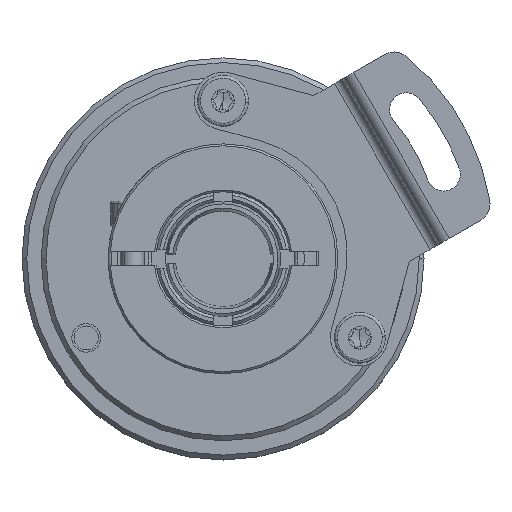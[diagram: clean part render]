
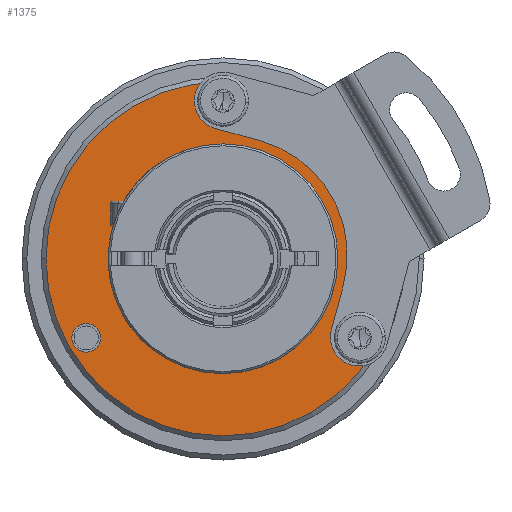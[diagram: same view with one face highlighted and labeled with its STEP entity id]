
A CAD part, top view. The second image highlights one B-rep face of the part: STEP entity #1375.
In plain terms, the highlighted planar face has unit normal (0, 0, 1).
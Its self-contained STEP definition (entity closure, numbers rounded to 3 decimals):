
#676 = EDGE_CURVE ( 'NONE', #703, #678, #4185, .T. ) ;
#678 = VERTEX_POINT ( 'NONE', #4181 ) ;
#703 = VERTEX_POINT ( 'NONE', #4200 ) ;
#705 = VERTEX_POINT ( 'NONE', #4199 ) ;
#716 = EDGE_CURVE ( 'NONE', #746, #705, #4240, .T. ) ;
#718 = VERTEX_POINT ( 'NONE', #4291 ) ;
#723 = VERTEX_POINT ( 'NONE', #4277 ) ;
#725 = VERTEX_POINT ( 'NONE', #4272 ) ;
#727 = VERTEX_POINT ( 'NONE', #4271 ) ;
#735 = EDGE_CURVE ( 'NONE', #727, #725, #4266, .T. ) ;
#744 = EDGE_CURVE ( 'NONE', #718, #723, #4313, .T. ) ;
#746 = VERTEX_POINT ( 'NONE', #4308 ) ;
#1351 = EDGE_LOOP ( 'NONE', ( #1363, #1398 ) ) ;
#1363 = ORIENTED_EDGE ( 'NONE', *, *, #1414, .F. ) ;
#1370 = EDGE_CURVE ( 'NONE', #678, #703, #5510, .T. ) ;
#1375 = ADVANCED_FACE ( 'NONE', ( #5560, #5559, #5558, #5557, #5556 ), #5500, .F. ) ;
#1377 = ORIENTED_EDGE ( 'NONE', *, *, #1370, .F. ) ;
#1379 = ORIENTED_EDGE ( 'NONE', *, *, #676, .F. ) ;
#1383 = EDGE_LOOP ( 'NONE', ( #1377, #1379 ) ) ;
#1390 = EDGE_LOOP ( 'NONE', ( #1397, #1407 ) ) ;
#1396 = EDGE_CURVE ( 'NONE', #725, #727, #5583, .T. ) ;
#1397 = ORIENTED_EDGE ( 'NONE', *, *, #1438, .T. ) ;
#1398 = ORIENTED_EDGE ( 'NONE', *, *, #716, .F. ) ;
#1400 = ORIENTED_EDGE ( 'NONE', *, *, #735, .F. ) ;
#1402 = EDGE_LOOP ( 'NONE', ( #1405, #1400 ) ) ;
#1404 = EDGE_LOOP ( 'NONE', ( #1408, #1410 ) ) ;
#1405 = ORIENTED_EDGE ( 'NONE', *, *, #1396, .F. ) ;
#1407 = ORIENTED_EDGE ( 'NONE', *, *, #744, .T. ) ;
#1408 = ORIENTED_EDGE ( 'NONE', *, *, #1416, .F. ) ;
#1410 = ORIENTED_EDGE ( 'NONE', *, *, #1913, .F. ) ;
#1414 = EDGE_CURVE ( 'NONE', #705, #746, #5570, .T. ) ;
#1416 = EDGE_CURVE ( 'NONE', #1918, #1921, #5625, .T. ) ;
#1438 = EDGE_CURVE ( 'NONE', #723, #718, #5650, .T. ) ;
#1913 = EDGE_CURVE ( 'NONE', #1921, #1918, #8037, .T. ) ;
#1918 = VERTEX_POINT ( 'NONE', #8031 ) ;
#1921 = VERTEX_POINT ( 'NONE', #8021 ) ;
#4181 = CARTESIAN_POINT ( 'NONE',  ( 15.789, -8.25, 0. ) ) ;
#4182 = DIRECTION ( 'NONE',  ( 1., 0., 0. ) ) ;
#4183 = DIRECTION ( 'NONE',  ( 0., 0., 1. ) ) ;
#4184 = AXIS2_PLACEMENT_3D ( 'NONE', #4190, #4183, #4182 ) ;
#4185 = CIRCLE ( 'NONE', #4184, 1.5 ) ;
#4190 = CARTESIAN_POINT ( 'NONE',  ( 14.289, -8.25, 0. ) ) ;
#4199 = CARTESIAN_POINT ( 'NONE',  ( -12.789, -8.25, 0. ) ) ;
#4200 = CARTESIAN_POINT ( 'NONE',  ( 12.789, -8.25, 0. ) ) ;
#4231 = DIRECTION ( 'NONE',  ( 1., 0., 0. ) ) ;
#4232 = DIRECTION ( 'NONE',  ( 0., 0., 1. ) ) ;
#4233 = CARTESIAN_POINT ( 'NONE',  ( -14.289, -8.25, 0. ) ) ;
#4234 = AXIS2_PLACEMENT_3D ( 'NONE', #4233, #4232, #4231 ) ;
#4240 = CIRCLE ( 'NONE', #4234, 1.5 ) ;
#4262 = DIRECTION ( 'NONE',  ( 1., 0., 0. ) ) ;
#4263 = DIRECTION ( 'NONE',  ( 0., 0., 1. ) ) ;
#4264 = CARTESIAN_POINT ( 'NONE',  ( 0., 16.5, 0. ) ) ;
#4265 = AXIS2_PLACEMENT_3D ( 'NONE', #4264, #4263, #4262 ) ;
#4266 = CIRCLE ( 'NONE', #4265, 1.5 ) ;
#4271 = CARTESIAN_POINT ( 'NONE',  ( -1.5, 16.5, 0. ) ) ;
#4272 = CARTESIAN_POINT ( 'NONE',  ( 1.5, 16.5, 0. ) ) ;
#4277 = CARTESIAN_POINT ( 'NONE',  ( -18.5, 0., 0. ) ) ;
#4291 = CARTESIAN_POINT ( 'NONE',  ( 18.5, 0., 0. ) ) ;
#4308 = CARTESIAN_POINT ( 'NONE',  ( -15.789, -8.25, 0. ) ) ;
#4309 = DIRECTION ( 'NONE',  ( -1., 0., 0. ) ) ;
#4310 = DIRECTION ( 'NONE',  ( 0., 0., 1. ) ) ;
#4311 = CARTESIAN_POINT ( 'NONE',  ( 0., 0., 0. ) ) ;
#4312 = AXIS2_PLACEMENT_3D ( 'NONE', #4311, #4310, #4309 ) ;
#4313 = CIRCLE ( 'NONE', #4312, 18.5 ) ;
#5500 = PLANE ( 'NONE',  #5555 ) ;
#5506 = DIRECTION ( 'NONE',  ( 1., 0., 0. ) ) ;
#5507 = DIRECTION ( 'NONE',  ( 0., 0., 1. ) ) ;
#5508 = CARTESIAN_POINT ( 'NONE',  ( 14.289, -8.25, 0. ) ) ;
#5509 = AXIS2_PLACEMENT_3D ( 'NONE', #5508, #5507, #5506 ) ;
#5510 = CIRCLE ( 'NONE', #5509, 1.5 ) ;
#5552 = DIRECTION ( 'NONE',  ( -1., 0., 0. ) ) ;
#5553 = DIRECTION ( 'NONE',  ( 0., 0., -1. ) ) ;
#5554 = CARTESIAN_POINT ( 'NONE',  ( 0., 12., 0. ) ) ;
#5555 = AXIS2_PLACEMENT_3D ( 'NONE', #5554, #5553, #5552 ) ;
#5556 = FACE_BOUND ( 'NONE', #1404, .T. ) ;
#5557 = FACE_OUTER_BOUND ( 'NONE', #1390, .T. ) ;
#5558 = FACE_BOUND ( 'NONE', #1402, .T. ) ;
#5559 = FACE_BOUND ( 'NONE', #1351, .T. ) ;
#5560 = FACE_BOUND ( 'NONE', #1383, .T. ) ;
#5566 = DIRECTION ( 'NONE',  ( 1., 0., 0. ) ) ;
#5567 = DIRECTION ( 'NONE',  ( 0., 0., 1. ) ) ;
#5568 = CARTESIAN_POINT ( 'NONE',  ( -14.289, -8.25, 0. ) ) ;
#5569 = AXIS2_PLACEMENT_3D ( 'NONE', #5568, #5567, #5566 ) ;
#5570 = CIRCLE ( 'NONE', #5569, 1.5 ) ;
#5580 = DIRECTION ( 'NONE',  ( 1., 0., 0. ) ) ;
#5581 = DIRECTION ( 'NONE',  ( 0., 0., 1. ) ) ;
#5582 = AXIS2_PLACEMENT_3D ( 'NONE', #5588, #5581, #5580 ) ;
#5583 = CIRCLE ( 'NONE', #5582, 1.5 ) ;
#5588 = CARTESIAN_POINT ( 'NONE',  ( 0., 16.5, 0. ) ) ;
#5621 = DIRECTION ( 'NONE',  ( 1., 0., 0. ) ) ;
#5622 = DIRECTION ( 'NONE',  ( 0., 0., 1. ) ) ;
#5623 = CARTESIAN_POINT ( 'NONE',  ( 0., 0., 0. ) ) ;
#5624 = AXIS2_PLACEMENT_3D ( 'NONE', #5623, #5622, #5621 ) ;
#5625 = CIRCLE ( 'NONE', #5624, 12. ) ;
#5646 = DIRECTION ( 'NONE',  ( -1., 0., 0. ) ) ;
#5647 = DIRECTION ( 'NONE',  ( 0., 0., 1. ) ) ;
#5648 = CARTESIAN_POINT ( 'NONE',  ( 0., 0., 0. ) ) ;
#5649 = AXIS2_PLACEMENT_3D ( 'NONE', #5648, #5647, #5646 ) ;
#5650 = CIRCLE ( 'NONE', #5649, 18.5 ) ;
#8021 = CARTESIAN_POINT ( 'NONE',  ( -12., 0., 0. ) ) ;
#8031 = CARTESIAN_POINT ( 'NONE',  ( 12., 0., 0. ) ) ;
#8033 = DIRECTION ( 'NONE',  ( 1., 0., 0. ) ) ;
#8034 = DIRECTION ( 'NONE',  ( 0., 0., 1. ) ) ;
#8035 = CARTESIAN_POINT ( 'NONE',  ( 0., 0., 0. ) ) ;
#8036 = AXIS2_PLACEMENT_3D ( 'NONE', #8035, #8034, #8033 ) ;
#8037 = CIRCLE ( 'NONE', #8036, 12. ) ;
